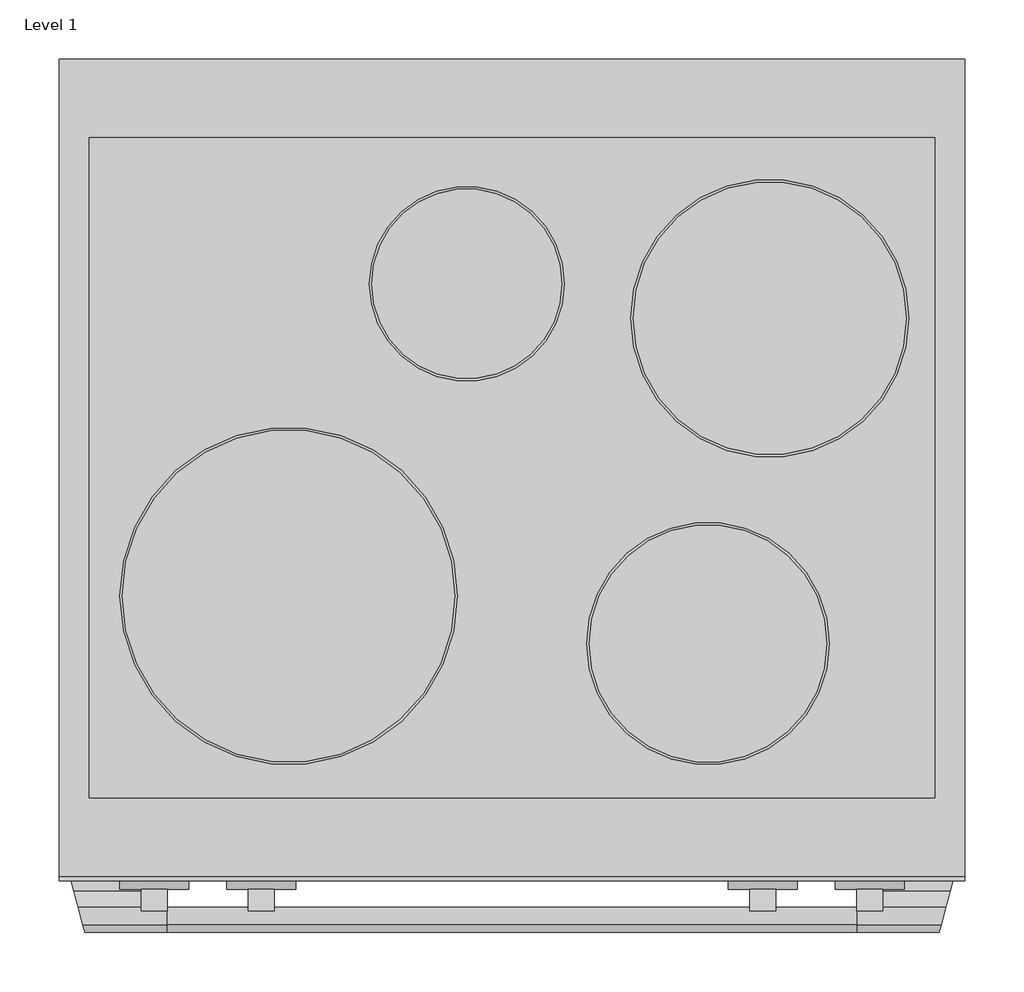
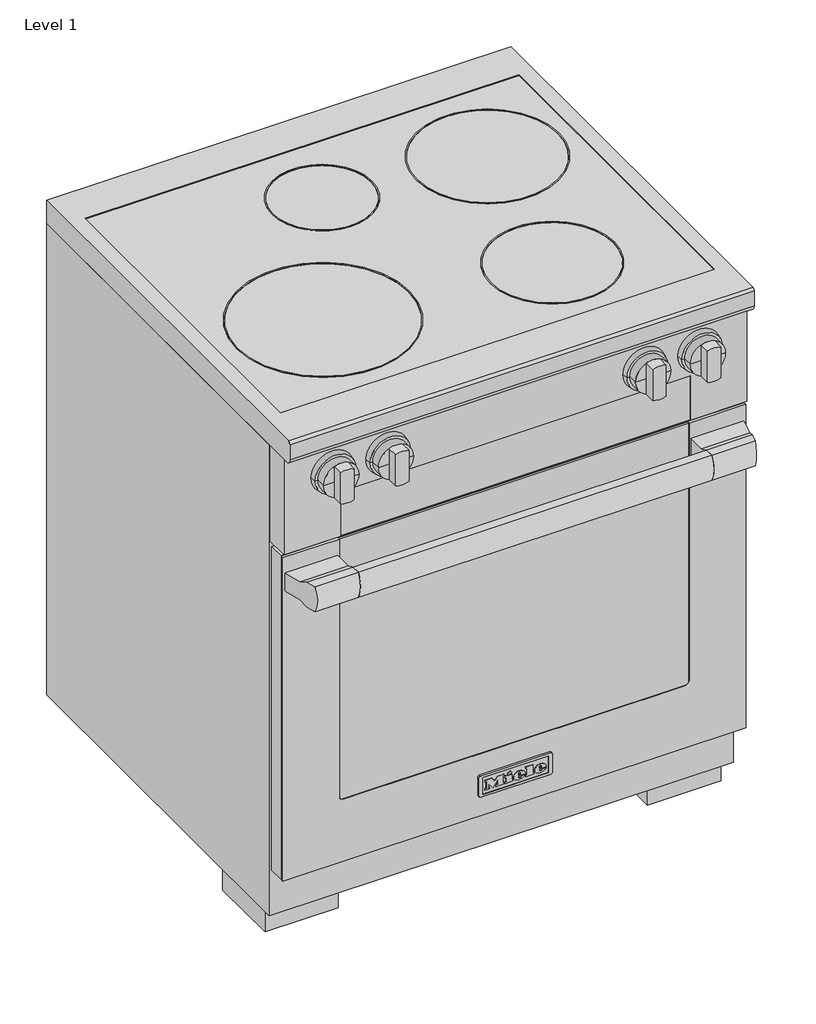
# One storey: 1 proxy.
"""IFC4 building model written with IfcOpenShell, lengths in millimetres."""

from ifc_helpers import new_model, si_unit, origin, place, context, project, spatial, transform, mapped, element, save
from components import specialty_equipment_7ad5a8f8, specialty_equipment_edddaffb

model = new_model("IFC4")

# Units and contexts
model_context = context("Model", 3, world=origin())
ifc_project = project(units=[si_unit("LENGTHUNIT", "METRE", prefix="MILLI")], contexts=[model_context])

# Site, building, storey
site = spatial("IfcSite", under=ifc_project)
building = spatial("IfcBuilding", under=site)
storey = spatial("IfcBuildingStorey", under=building, Name="Level 1", Elevation=0.0)

# Proxy
placement = place(None, origin())
specialty_equipment_shape = specialty_equipment_7ad5a8f8(model_context)
specialty_equipment_2_shape = specialty_equipment_edddaffb(model_context)
element("IfcBuildingElementProxy", 1, Name="10902350_USA_HR1622-2_EDST-CLST : 25162271_USA_10902350_HR1622-2_EDST-CLST", ObjectType="10902350_USA_HR1622-2_EDST-CLST : 25162271_USA_10902350_HR1622-2_EDST-CLST", at=placement, inside=storey, context=model_context, shape_type="MappedRepresentation", body=[
    mapped(specialty_equipment_shape, transform((0.0, 0.0, 0.0), x_axis=(1.0, 0.0, 0.0), y_axis=(0.0, 1.0, 0.0), z_axis=(0.0, 0.0, 1.0))),
    mapped(specialty_equipment_2_shape, transform((0.0, 0.0, 0.0), x_axis=(1.0, 0.0, 0.0), y_axis=(0.0, 1.0, 0.0), z_axis=(0.0, 0.0, 1.0))),
])

save(model, "model.ifc")
